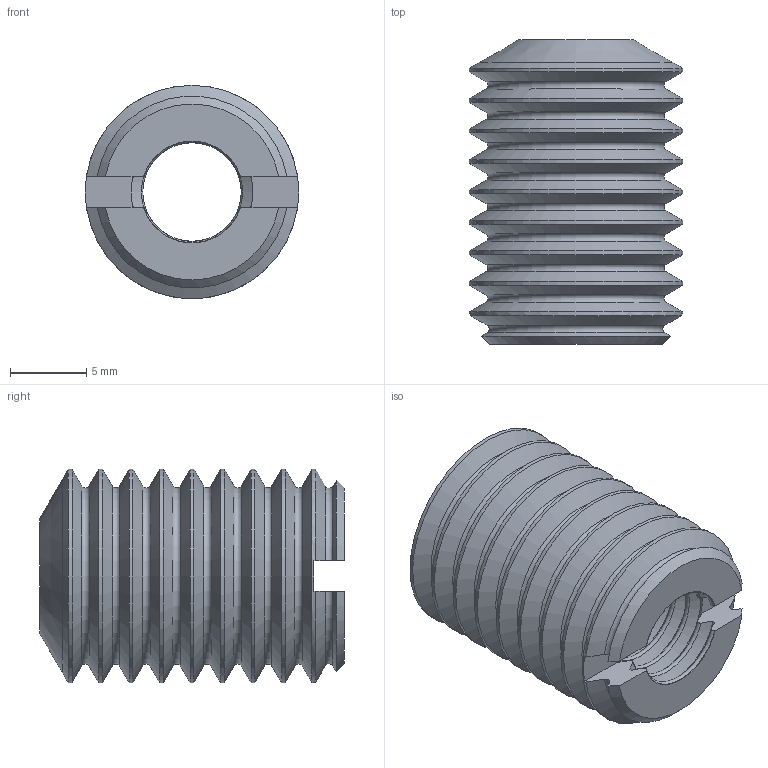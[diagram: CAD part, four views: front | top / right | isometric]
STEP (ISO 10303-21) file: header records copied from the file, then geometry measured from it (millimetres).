
FILE_DESCRIPTION(/* description */ ('Boccola di riduzione M14-M8 lungh. 20 mm'),/* implementation_level */ '2;1');
FILE_NAME(/* name */ 'C:\Users\Stefan.Nesic\Desktop\01010 STEP da zippare\B51-14-08.stp',/* time_stamp */ '2022-06-17T12:14:55+02:00',/* author */ ('USER'),/* organization */ ('Microsoft'),/* preprocessor_version */ 'ST-DEVELOPER v18.1',/* originating_system */ 'Autodesk Inventor 2021',/* authorisation */ '');
FILE_SCHEMA (('AUTOMOTIVE_DESIGN { 1 0 10303 214 3 1 1 }'));
Length unit declared in the file: millimetre
Products named in the file (1): B51-14-08
Bounding box: 14 x 20 x 14 mm (x, y, z)
Volume: 1640.9 mm3; surface area: 2171.3 mm2
Topology: 1 solids, 1 shells, 125 faces, 323 edges, 200 vertices
Faces by surface type: cone 61, torus 28, cylinder 26, plane 10
Full cylindrical faces by diameter (mm): 8 x15, 14 x9
Entity records: 4030 total; most frequent: CARTESIAN_POINT 861, DIRECTION 731, ORIENTED_EDGE 646, EDGE_CURVE 323, AXIS2_PLACEMENT_3D 318, VERTEX_POINT 200, CIRCLE 192, EDGE_LOOP 127
